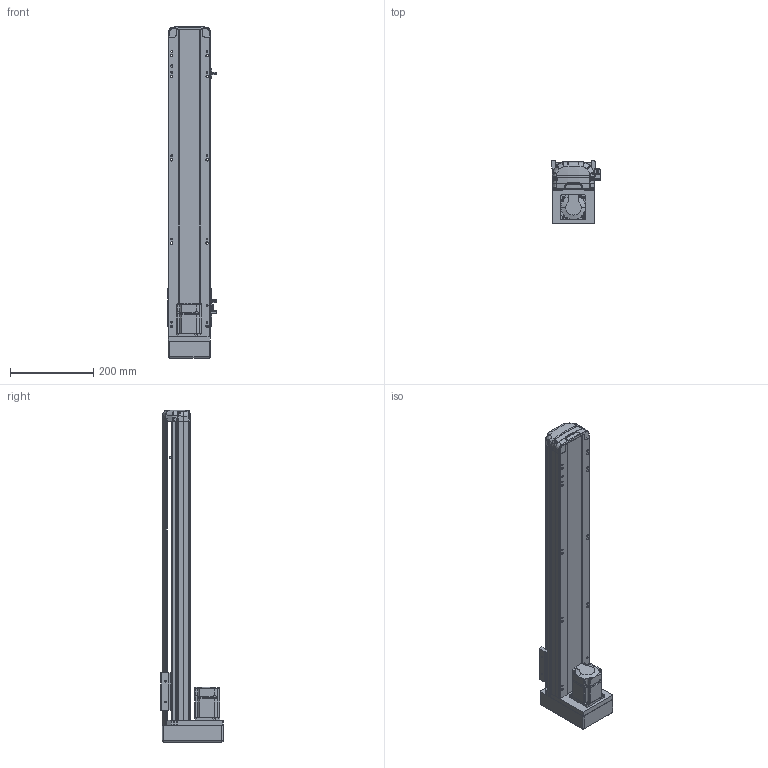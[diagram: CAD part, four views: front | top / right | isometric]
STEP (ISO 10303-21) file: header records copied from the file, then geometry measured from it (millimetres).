
FILE_DESCRIPTION (( 'STEP AP214' ), '1' );
FILE_NAME ('RTH10-XX-550-M-M20-C4.STEP', '2025-10-25T04:50:11', ( 'Microsoft' ), ( 'Microsoft' ), 'SwSTEP 2.0', 'SolidWorks 2018', '' );
FILE_SCHEMA (( 'AUTOMOTIVE_DESIGN' ));
Length unit declared in the file: millimetre
Products named in the file (10): N_RTH12-GY-004-賑釱^RTH10-XX-XX-M-M20-C4; N_RTH12-M-008-萇儂啣^RTH10-XX-XX-M-M20-C4; N_RTH12-M-007P-奻裔^RTH10-XX-XX-M-M20-C4; N_RTH12-M-011P-臏倰第菁釱^RTH10-XX-XX-M-M20-C4; N_RTH12-M-018-裔赽^RTH10-XX-XX-M-M20-C4; RTH10-XX-550-M-M20-C4; N_OMRON EE-SX672 传感器^RTH10-XX-XX-M-M20-C4; N_RTH13-L-012覜茼え俋离^RTH10-XX-XX-M-M20-C4; N_RTH12-GY-001P^RTH10-XX-XX-M-M20-C4; N_200W-1^RTH10-XX-XX-M-M20-C4
Assembly tree (11 placements, depth 2):
  RTH10-XX-550-M-M20-C4
    N_RTH12-M-011P-臏倰第菁釱^RTH10-XX-XX-M-M20-C4
    N_RTH13-L-012覜茼え俋离^RTH10-XX-XX-M-M20-C4
    N_OMRON EE-SX672 传感器^RTH10-XX-XX-M-M20-C4  x3
    N_200W-1^RTH10-XX-XX-M-M20-C4
    N_RTH12-M-007P-奻裔^RTH10-XX-XX-M-M20-C4
    N_RTH12-M-008-萇儂啣^RTH10-XX-XX-M-M20-C4
    N_RTH12-M-018-裔赽^RTH10-XX-XX-M-M20-C4
    N_RTH12-GY-004-賑釱^RTH10-XX-XX-M-M20-C4
    N_RTH12-GY-001P^RTH10-XX-XX-M-M20-C4
Bounding box: 116.5 x 149 x 797.14 mm (x, y, z)
Volume: 3890911.6 mm3; surface area: 581168.2 mm2
Topology: 10 solids, 12 shells, 1989 faces, 5548 edges, 3643 vertices
Faces by surface type: plane 991, cylinder 491, bspline 472, cone 29, sphere 4, torus 2
Entity records: 59938 total; most frequent: CARTESIAN_POINT 23443, ORIENTED_EDGE 8168, DIRECTION 6338, EDGE_CURVE 4090, VERTEX_POINT 2687, LINE 2198, VECTOR 2198, AXIS2_PLACEMENT_3D 2070
